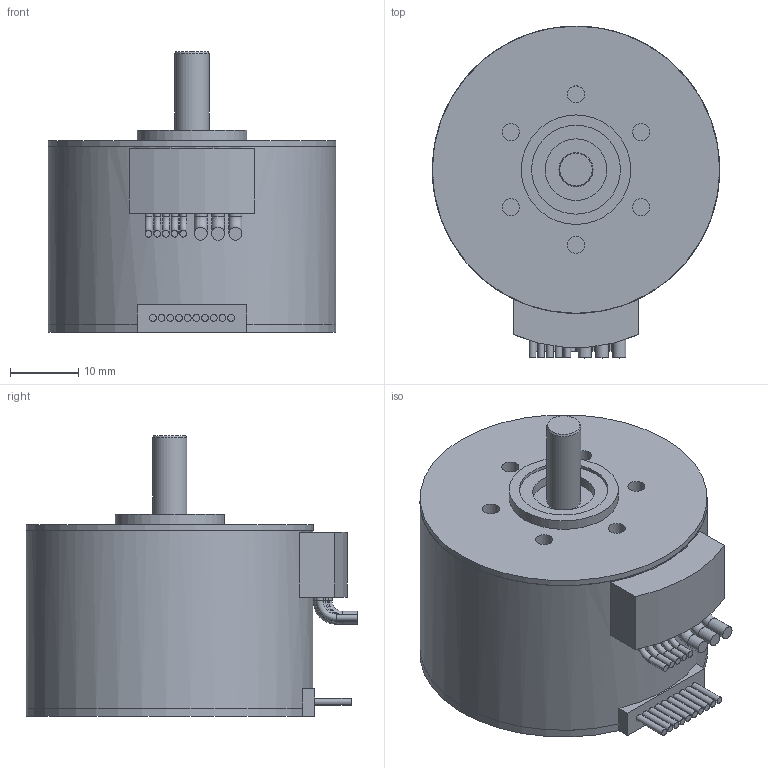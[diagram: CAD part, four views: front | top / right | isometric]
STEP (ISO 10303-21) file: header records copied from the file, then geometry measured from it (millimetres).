
FILE_DESCRIPTION(/* description */ (''),/* implementation_level */ '2;1');
FILE_NAME(/* name */ '4221.BXT_IEF3_L.stp',/* time_stamp */ '2019-09-17T16:21:24+02:00',/* author */ ('DR. FRITZ FAULHABER GmbH & Co. KG'),/* organization */ ('DR. FRITZ FAULHABER GmbH & Co. KG'),/* preprocessor_version */ 'ST-DEVELOPER v16.7',/* originating_system */ 'SIEMENS PLM Software NX 12.0',/* authorisation */ '');
FILE_SCHEMA (('AUTOMOTIVE_DESIGN { 1 0 10303 214 3 1 1 1 }'));
Length unit declared in the file: millimetre
Products named in the file (1): H00002280-A-4221.0H007
Bounding box: 42 x 48.5 x 41 mm (x, y, z)
Volume: 40166.1 mm3; surface area: 7685.4 mm2
Topology: 1 solids, 1 shells, 112 faces, 247 edges, 158 vertices
Faces by surface type: plane 53, cylinder 50, torus 8, cone 1
Full cylindrical faces by diameter (mm): 1 x10, 1.9 x6, 2.5 x6, 5 x1, 9 x1, 13 x1, 16 x1, 41.999 x1, 42 x2
Entity records: 2888 total; most frequent: DIRECTION 534, CARTESIAN_POINT 471, ORIENTED_EDGE 408, AXIS2_PLACEMENT_3D 217, EDGE_CURVE 204, EDGE_LOOP 172, VERTEX_POINT 154, ADVANCED_FACE 112
